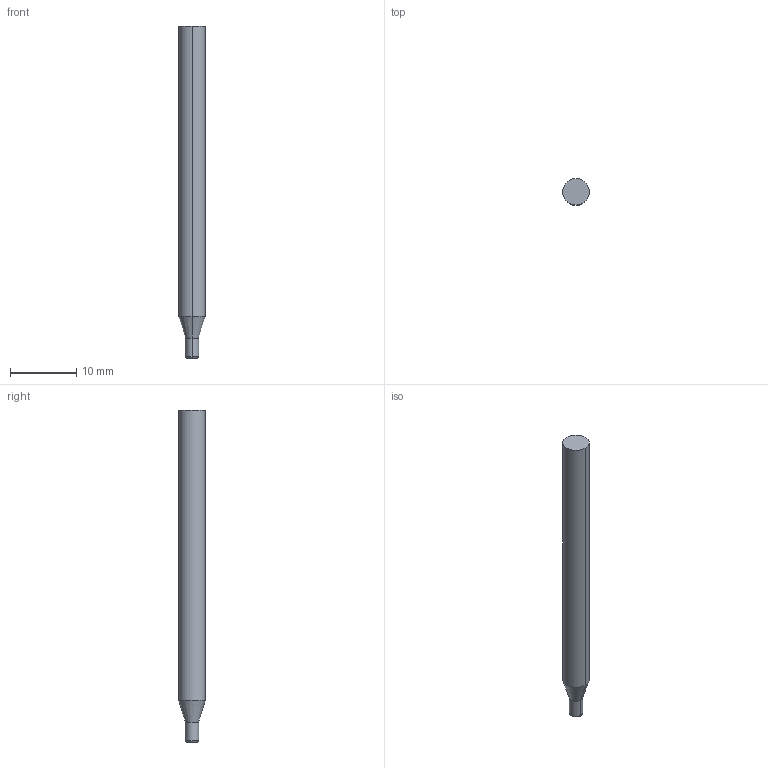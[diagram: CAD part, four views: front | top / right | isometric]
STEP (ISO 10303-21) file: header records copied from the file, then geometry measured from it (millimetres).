
FILE_DESCRIPTION((' '),'2;1');
FILE_NAME( '3MVSM0200R.20AH.stp', '2026-01-21T19:27:46', (' '), ('--- Datakit www.datakit.com---'), ' Datakit CrossCadWare V2025.4 Sep 19 2025', 'Mastercam 2027', ' ');
FILE_SCHEMA(('AUTOMOTIVE_DESIGN { 1 0 10303 214 1 1 1 1 }'));
Length unit declared in the file: inch
Products named in the file (1): 3MVSM0200R
Bounding box: 4 x 4 x 50 mm (x, y, z)
Volume: 583 mm3; surface area: 615.8 mm2
Topology: 1 solids, 1 shells, 10 faces, 18 edges, 10 vertices
Faces by surface type: cylinder 4, plane 2, torus 2, cone 2
Entity records: 318 total; most frequent: DIRECTION 60, CARTESIAN_POINT 43, ORIENTED_EDGE 36, AXIS2_PLACEMENT_3D 27, EDGE_CURVE 18, CIRCLE 12, VERTEX_POINT 10, EDGE_LOOP 10
